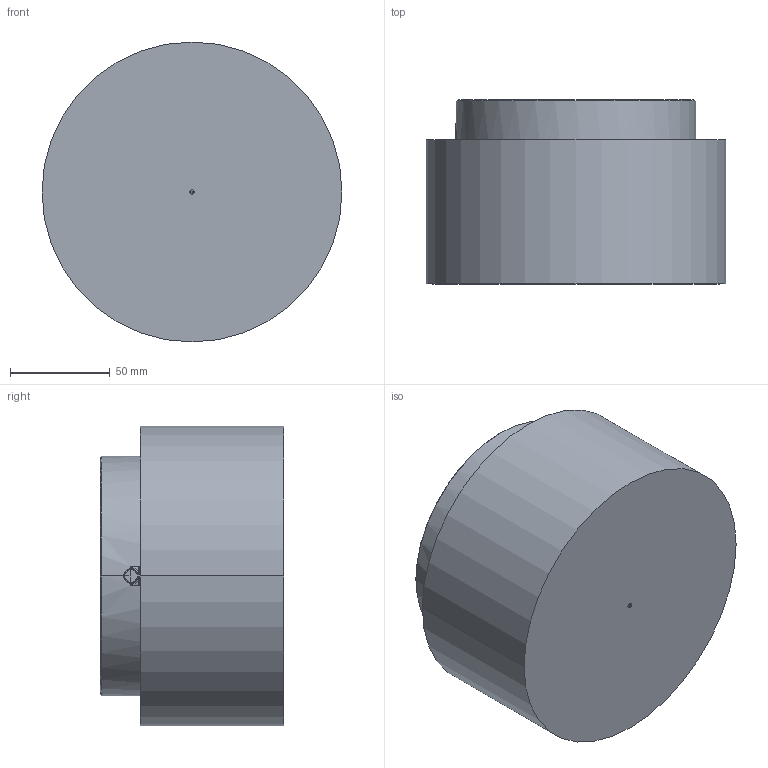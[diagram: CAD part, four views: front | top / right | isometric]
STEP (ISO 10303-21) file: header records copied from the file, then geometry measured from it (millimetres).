
FILE_DESCRIPTION((''),'2;1');
FILE_NAME('S54G101.stp','2020-09-19T08:44:50',(''),(''),'AutoCAD STEP 2000i','AutoCAD 2000i',', , ');
FILE_SCHEMA(('CONFIG_CONTROL_DESIGN'));
Length unit declared in the file: millimetre
Products named in the file (4): DRAWING1; NOZZLE S101G54; MOLD BODY 101G54; RING 54-2018
Assembly tree (3 placements, depth 2):
  DRAWING1
    NOZZLE S101G54
    MOLD BODY 101G54
    RING 54-2018
Bounding box: 150 x 92 x 150 mm (x, y, z)
Volume: 1466372.3 mm3; surface area: 129525.8 mm2
Topology: 3 solids, 3 shells, 158 faces, 376 edges, 236 vertices
Faces by surface type: cylinder 62, cone 46, plane 27, bspline 13, torus 10
Entity records: 5273 total; most frequent: CARTESIAN_POINT 1343, DIRECTION 902, ORIENTED_EDGE 736, AXIS2_PLACEMENT_3D 392, EDGE_CURVE 368, CIRCLE 243, VERTEX_POINT 234, EDGE_LOOP 188
